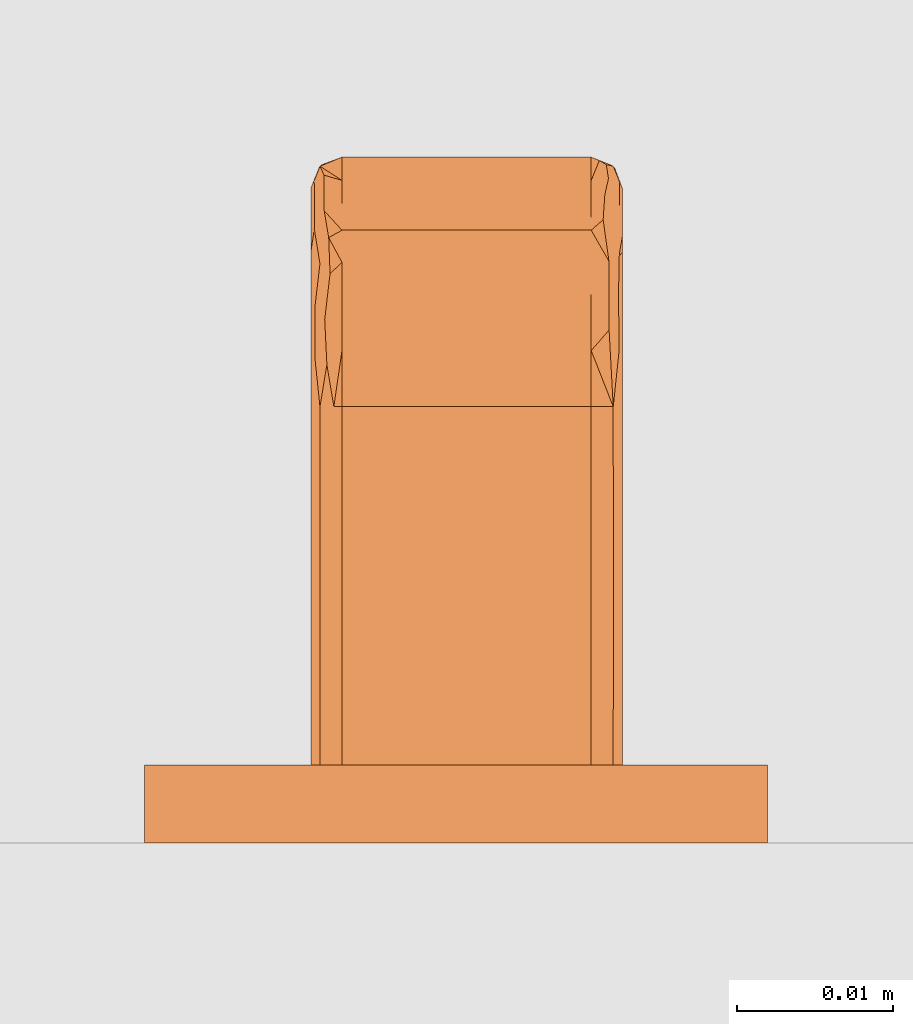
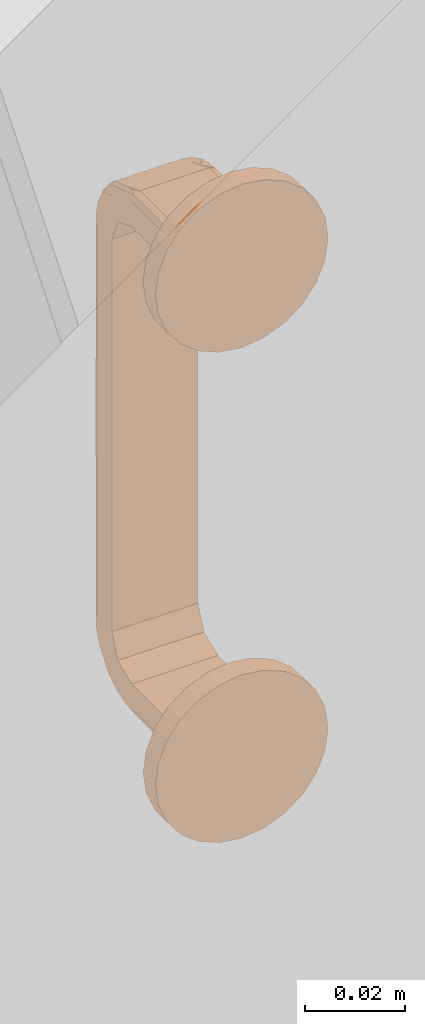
# One storey, part 41 of 67: 1 proxy.
"""IFC4 building model written with IfcOpenShell, lengths in millimetres."""

from ifc_helpers import new_model, entity, si_unit, converted_unit, direction, frame, origin, place, context, subcontext, project, spatial, polygons, source, transform, mapped, material, type_object, type_shapes, element, save


model = new_model("IFC4")

# Units and contexts
model_context = context("Model", 3, precision=0.01, world=origin(), true_north=direction((0.0, 1.0)))
body_context = subcontext(model_context, "Body", "Model", "MODEL_VIEW")
ifc_project = project(units=[si_unit("LENGTHUNIT", "METRE", prefix="MILLI"), si_unit("AREAUNIT", "SQUARE_METRE"), si_unit("VOLUMEUNIT", "CUBIC_METRE"), converted_unit("PLANEANGLEUNIT", "DEGREE", entity("IfcPlaneAngleMeasure", 0.017453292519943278), si_unit("PLANEANGLEUNIT", "RADIAN"), dimensions=[0, 0, 0, 0, 0, 0, 0])], contexts=[model_context])

# Site, building, storey, space
site_placement = place(None, origin())
site = spatial("IfcSite", under=ifc_project, at=site_placement, Name="Tomtens navn", CompositionType="ELEMENT")
building_placement = place(site_placement, origin())
building = spatial("IfcBuilding", under=site, at=building_placement, Name="Byggets navn", CompositionType="ELEMENT")
storey_placement = place(building_placement, origin())
storey = spatial("IfcBuildingStorey", under=building, at=storey_placement, Name="Level 01", CompositionType="ELEMENT", Elevation=2.1993652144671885e-25)
space_placement = place(storey_placement, origin())
space = spatial("IfcSpace", under=storey, at=space_placement, Name="102", CompositionType="ELEMENT", PredefinedType="NOTDEFINED")

# Proxy
ifc_material = material(Name="Handtag, vitt", Category="Unassigned")
building_element_proxy_type = type_object("IfcBuildingElementProxyType", Name="Handtag skåp1:Handtag skåp", PredefinedType="NOTDEFINED", material=ifc_material)
shared_shape = source(origin(), body_context, "Body", "Tessellation", [
    polygons([(8.670220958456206, 4.999999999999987, 4.021099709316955), (-7.329779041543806, 4.999999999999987, 4.021099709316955), (-8.743992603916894, 4.9999999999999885, 3.435313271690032), (-9.32977904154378, 4.999999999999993, 2.021099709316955), (-9.32977904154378, 5.0000000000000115, -4.0210997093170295), (10.67022095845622, 5.0000000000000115, -4.021099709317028), (10.67022095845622, 4.999999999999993, 2.0210997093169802), (10.084434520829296, 4.9999999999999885, 3.435313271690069), (10.67022095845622, 28.000000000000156, 2.0210997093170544), (10.084434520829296, 28.000000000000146, 3.435313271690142), (8.670220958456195, 28.000000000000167, 4.0210997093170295), (8.670220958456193, 15.654960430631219, 4.02109970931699), (10.67022095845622, 17.345040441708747, 2.02109970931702), (10.08659387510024, 16.21238630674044, 3.433150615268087), (10.67022095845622, 28.000000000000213, -4.021099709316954), (10.67022095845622, 33.64193450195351, -6.358065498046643), (10.67022095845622, 35.97890029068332, -11.999999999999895), (10.67022095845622, 35.97890029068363, -107.99999999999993), (10.67022095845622, 33.641934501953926, -113.64193450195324), (10.67022095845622, 28.000000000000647, -115.97890029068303), (10.67022095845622, 4.999999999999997, -115.97890029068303), (10.67022095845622, 4.999999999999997, -122.02109970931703), (10.67022095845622, 28.000000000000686, -122.02109970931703), (10.67022095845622, 37.914414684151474, -117.91441468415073), (10.67022095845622, 42.02109970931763, -107.99999999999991), (10.67022095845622, 42.0210997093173, -11.999999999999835), (10.67022095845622, 37.914414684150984, -2.085585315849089), (-9.32977904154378, 28.000000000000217, -4.021099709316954), (-9.32977904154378, 28.000000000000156, 2.02109970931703), (-9.32977904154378, 37.91441468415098, -2.085585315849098), (-9.32977904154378, 42.02109970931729, -11.999999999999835), (-9.32977904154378, 42.02109970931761, -107.99999999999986), (-9.32977904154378, 37.91441468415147, -117.91441468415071), (-9.32977904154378, 28.00000000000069, -122.02109970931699), (-9.32977904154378, 4.999999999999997, -122.021099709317), (-9.32977904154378, 4.999999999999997, -115.978900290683), (-9.32977904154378, 28.000000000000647, -115.97890029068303), (-9.32977904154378, 33.641934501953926, -113.64193450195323), (-9.32977904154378, 35.97890029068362, -107.99999999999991), (-9.32977904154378, 35.978900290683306, -11.999999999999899), (-9.32977904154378, 33.64193450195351, -6.358065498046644), (-7.329779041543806, 28.00000000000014, 4.0210997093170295), (-8.743992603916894, 28.000000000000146, 3.435313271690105), (-9.32977904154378, 15.654959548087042, 2.021099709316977), (-7.3297790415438, 17.34503999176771, 4.021099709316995), (-8.741829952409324, 16.21238644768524, 3.43747262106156), (10.084434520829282, 43.43531327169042, -11.999999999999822), (8.670220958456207, 44.021099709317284, -11.999999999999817), (8.670220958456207, 39.328628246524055, -0.6713717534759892), (10.67022095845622, 31.60126528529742, 0.5294067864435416), (8.670220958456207, 41.03771385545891, -4.797469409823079), (10.084434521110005, 40.40873190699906, -2.8200071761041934), (8.670220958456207, 35.20253058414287, 1.0377138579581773), (9.809043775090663, 37.34144424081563, 0.5752165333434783), (9.818751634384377, 32.92350079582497, 2.8642465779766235), (10.67022095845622, 39.96775719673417, -7.042792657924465), (10.377327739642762, 28.000000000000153, 2.7282064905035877), (8.670220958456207, 42.529406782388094, -8.398734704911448), (9.779150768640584, 42.65191997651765, -6.400304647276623), (10.431420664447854, 34.75591670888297, 1.357514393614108), (10.447049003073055, 37.64140257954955, -0.5884869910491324), (10.67022095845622, 34.7578399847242, -0.7780892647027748), (10.453824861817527, 31.52927433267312, 2.5026982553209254), (8.670220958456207, 31.601265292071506, 2.5294067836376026), (8.670220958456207, 40.18317105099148, -2.734420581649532), (9.435587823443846, 40.00295364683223, -1.6197407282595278), (9.543801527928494, 41.59747716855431, -3.9137042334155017), (10.67022095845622, 38.941085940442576, -4.564188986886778), (10.50224699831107, 40.95405539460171, -4.794062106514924), (10.477567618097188, 42.45420227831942, -8.47617064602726), (9.193272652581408, 43.80444460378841, -11.999999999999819), (9.638611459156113, 43.538770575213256, -9.303396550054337), (10.67022095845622, 40.99442845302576, -9.521396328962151), (-7.329779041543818, 44.021099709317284, -11.999999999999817), (-8.743992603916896, 43.43531327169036, -11.999999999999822), (-7.329779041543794, 39.328628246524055, -0.6713717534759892), (-7.329779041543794, 35.20253057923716, 1.0377138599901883), (-8.743992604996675, 37.179992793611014, 0.40873192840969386), (-9.32977904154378, 40.52940677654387, -8.398734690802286), (-7.329779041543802, 41.03771385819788, -4.797469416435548), (-8.468601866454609, 40.57521654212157, -2.6585557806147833), (-8.47830971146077, 42.864246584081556, -7.076499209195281), (-9.32977904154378, 32.95720734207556, -0.03224280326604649), (-9.036885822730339, 42.728206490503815, -11.999999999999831), (-7.329779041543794, 31.601265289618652, 2.529406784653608), (-8.43870885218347, 33.59969531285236, 2.6519199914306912), (-9.090978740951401, 41.357514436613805, -5.244083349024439), (-9.106607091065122, 39.41151304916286, -2.358597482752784), (-9.32977904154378, 39.22191073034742, -5.242160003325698), (-9.113382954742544, 42.502698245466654, -8.470725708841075), (-7.32977904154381, 42.52940678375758, -8.398734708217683), (-7.329779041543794, 37.26557941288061, 0.18317105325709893), (-8.095145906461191, 36.54048464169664, 1.37463273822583), (-8.18279176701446, 38.85536792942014, -0.47819170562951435), (-9.32977904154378, 35.43581101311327, -1.0589140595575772), (-7.852830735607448, 28.00000000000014, 3.8044446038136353), (-8.29816953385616, 30.69660343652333, 3.5387705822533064), (-9.060718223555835, 31.048754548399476, 2.7104148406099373), (-9.074370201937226, 34.340507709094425, 1.5930015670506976), (-9.32977904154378, 30.478603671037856, 0.9944284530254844), (-7.32977904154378, 33.664314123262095, 1.6748639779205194), (8.670220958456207, 33.664314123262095, 1.6748639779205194), (8.670220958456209, 30.748770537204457, 2.882521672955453), (-7.32977904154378, 41.67486397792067, -6.335685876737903), (8.670220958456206, 41.67486397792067, -6.335685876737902), (8.670220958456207, 40.50174611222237, -3.503528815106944), (-7.32977904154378, 36.496471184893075, 0.5017461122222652), (8.670220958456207, 36.496471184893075, 0.5017461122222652), (-7.32977904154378, 30.83215706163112, 2.847981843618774), (8.670220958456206, 42.882521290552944, -9.251228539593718), (-7.32977904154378, 42.84798184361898, -9.167842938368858), (-7.32977904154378, 40.50174611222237, -3.503528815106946), (10.084434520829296, 43.435313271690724, -107.99999999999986), (8.670220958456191, 44.0210997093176, -107.99999999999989), (10.67022095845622, 42.02109970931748, -61.380159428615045), (8.670220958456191, 44.021099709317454, -60.0000005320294), (8.670220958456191, 44.02109970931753, -83.30992070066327), (10.67022095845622, 42.021099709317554, -84.69007971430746), (8.670220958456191, 44.021099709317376, -36.690079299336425), (10.67022095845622, 42.02109970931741, -36.690079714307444), (10.67022095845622, 42.021099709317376, -24.34503985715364), (8.670220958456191, 44.02109970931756, -95.65496088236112), (8.670220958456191, 44.02109970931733, -24.34504018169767), (10.67022095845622, 42.021099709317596, -95.65496014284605), (10.084434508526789, 43.43531328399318, -90.17251993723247), (10.67022095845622, 42.02109970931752, -73.035119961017), (10.043884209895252, 43.4747328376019, -67.20763959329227), (10.084434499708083, 43.435313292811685, -30.517560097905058), (10.084434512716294, 43.435313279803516, -43.72292802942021), (10.67022095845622, 42.021099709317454, -49.03511957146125), (10.049878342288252, 43.469044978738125, -55.46284370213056), (8.67022095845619, 44.02109970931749, -71.65496114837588), (10.18815291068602, 43.32336027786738, -78.66752152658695), (8.670220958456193, 44.02109970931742, -48.34503991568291), (-7.329779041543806, 44.0210997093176, -107.99999999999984), (-8.743992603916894, 43.43531327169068, -107.99999999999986), (-7.3297790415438, 44.021099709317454, -61.38015981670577), (-9.32977904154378, 42.021099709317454, -59.999999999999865), (-9.32977904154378, 42.02109970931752, -83.30992051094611), (-7.329779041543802, 44.02109970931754, -84.69008022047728), (-9.32977904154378, 42.02109970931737, -36.69007991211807), (-7.329779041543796, 44.021099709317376, -36.69007990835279), (-7.329779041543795, 44.02109970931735, -24.345039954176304), (-9.32977904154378, 42.02109970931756, -95.65496025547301), (-9.32977904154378, 42.02109970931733, -24.345040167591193), (-7.329779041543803, 44.021099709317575, -95.65496067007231), (-8.743992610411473, 43.43531326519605, -90.17252002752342), (-7.3297790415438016, 44.0210997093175, -73.03512001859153), (-8.783412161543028, 43.39476296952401, -67.2076399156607), (-8.743992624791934, 43.4353132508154, -30.517560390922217), (-8.74399260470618, 43.43531327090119, -43.72292838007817), (-7.329779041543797, 44.02109970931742, -49.03511986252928), (-8.777724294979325, 43.40075710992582, -55.46284405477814), (-9.32977904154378, 42.02109970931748, -71.65496025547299), (-8.632039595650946, 43.53903167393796, -78.6675217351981), (-9.32977904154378, 42.02109970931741, -48.345039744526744), (10.08443452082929, 28.0000000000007, -123.43531327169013), (8.670220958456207, 28.000000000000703, -124.02109970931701), (8.670220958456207, 39.32862824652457, -119.32862824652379), (10.67022095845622, 40.52940678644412, -111.60126528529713), (8.670220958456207, 35.202530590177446, -121.03771385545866), (10.084434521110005, 37.179992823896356, -120.4087319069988), (8.670220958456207, 41.03771385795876, -115.20253058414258), (9.809043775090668, 40.575216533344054, -117.34144424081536), (9.818751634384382, 42.864246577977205, -112.9235007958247), (10.67022095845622, 32.95720734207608, -119.96775719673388), (10.377327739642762, 42.728206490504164, -107.99999999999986), (8.670220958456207, 31.601265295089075, -122.52940678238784), (9.779150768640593, 33.5996953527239, -122.65191997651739), (10.431420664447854, 41.357514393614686, -114.7559167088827), (10.447049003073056, 39.41151300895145, -117.64140257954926), (10.67022095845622, 39.2219107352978, -114.75783998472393), (10.453824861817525, 42.50269825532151, -111.52927433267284), (8.670220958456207, 42.52940678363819, -111.60126529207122), (8.670220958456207, 37.26557941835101, -120.18317105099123), (9.43558782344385, 38.38025927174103, -120.00295364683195), (9.543801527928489, 36.08629576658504, -121.59747716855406), (10.67022095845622, 35.435811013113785, -118.9410859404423), (10.50224699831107, 35.20593789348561, -120.95405539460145), (10.477567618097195, 31.523829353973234, -122.45420227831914), (9.193272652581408, 28.000000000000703, -123.80444460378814), (9.638611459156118, 30.696603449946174, -123.538770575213), (10.67022095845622, 30.47860367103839, -120.99442845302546), (-7.329779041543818, 28.000000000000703, -124.02109970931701), (-8.743992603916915, 28.0000000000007, -123.43531327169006), (-7.329779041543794, 39.32862824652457, -119.32862824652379), (-7.329779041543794, 41.03771385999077, -115.20253057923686), (-8.743992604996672, 40.40873192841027, -117.17999279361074), (-9.32977904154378, 31.601265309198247, -120.52940677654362), (-7.329779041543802, 35.20253058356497, -121.03771385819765), (-8.468601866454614, 37.34144421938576, -120.57521654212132), (-8.478309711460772, 32.92350079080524, -122.8642465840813), (-9.32977904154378, 39.967757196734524, -112.95720734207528), (-9.036885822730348, 28.000000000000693, -122.72820649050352), (-7.329779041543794, 42.529406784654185, -111.60126528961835), (-8.438708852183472, 42.65191999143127, -113.59969531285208), (-9.090978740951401, 34.75591665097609, -121.35751443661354), (-9.106607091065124, 37.64140251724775, -119.41151304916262), (-9.32977904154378, 34.75783999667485, -119.22191073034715), (-9.113382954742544, 31.529274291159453, -122.50269824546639), (-7.329779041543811, 31.601265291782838, -122.52940678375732), (-7.329779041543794, 40.18317105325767, -117.26557941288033), (-8.095145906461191, 41.37463273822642, -116.54048464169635), (-8.182791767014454, 39.52180829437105, -118.85536792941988), (-9.32977904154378, 38.941085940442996, -115.435811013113), (-7.852830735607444, 43.804444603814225, -107.99999999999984), (-8.298169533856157, 43.53877058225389, -110.69660343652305), (-9.060718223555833, 42.710414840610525, -111.04875454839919), (-9.074370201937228, 41.59300156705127, -114.34050770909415), (-9.32977904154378, 40.99442845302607, -110.47860367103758), (-7.32977904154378, 41.6748639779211, -113.66431412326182), (8.670220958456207, 41.6748639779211, -113.66431412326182), (8.670220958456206, 42.88252167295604, -110.74877053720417), (-7.32977904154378, 33.66431412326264, -121.67486397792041), (8.670220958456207, 33.66431412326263, -121.67486397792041), (8.670220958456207, 36.4964711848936, -120.50174611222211), (-7.32977904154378, 40.50174611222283, -116.4964711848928), (8.670220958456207, 40.50174611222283, -116.4964711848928), (-7.32977904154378, 42.84798184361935, -110.83215706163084), (8.670220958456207, 30.748771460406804, -122.88252129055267), (-7.329779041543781, 30.83215706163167, -122.84798184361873), (-7.32977904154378, 36.49647118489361, -120.50174611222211), (8.670220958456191, 4.99999999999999, -124.021099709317), (10.084434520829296, 4.99999999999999, -123.43531327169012), (-8.743992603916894, 4.99999999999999, -123.43531327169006), (-7.32977904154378, 4.99999999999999, -124.02109970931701), (8.670220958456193, 17.34504139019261, -124.021099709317), (10.67022095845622, 15.65496022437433, -122.02109970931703), (10.08659387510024, 16.787613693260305, -123.43315061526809), (-9.32977904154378, 17.34504010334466, -122.02109970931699), (-7.3297790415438, 15.6549594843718, -124.021099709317), (-8.741829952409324, 16.787613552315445, -123.43747262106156)], [[[4, 5, 6, 7, 8, 1, 2, 3]], [[18, 17, 40, 39]], [[226, 223, 224, 22, 21, 36, 35, 225]], [[13, 9, 57, 10]], [[14, 13, 10]], [[11, 12, 14]], [[1, 8, 12]], [[12, 8, 14]], [[13, 14, 7]], [[14, 8, 7]], [[14, 10, 11]], [[6, 15, 16, 17, 18, 19, 20, 21, 22, 228, 23, 183, 166, 178, 24, 172, 160, 25, 124, 118, 126, 115, 130, 120, 121, 26, 73, 56, 68, 27, 62, 50, 9, 13, 7]], [[15, 6, 5, 28]], [[158, 227, 223, 226, 231, 184]], [[36, 37, 38, 39, 40, 41, 28, 5, 4, 44, 29, 100, 83, 95, 30, 89, 79, 31, 145, 141, 156, 138, 154, 139, 144, 32, 210, 193, 205, 33, 199, 189, 34, 230, 35]], [[45, 42, 96, 43]], [[46, 45, 43]], [[29, 44, 46]], [[4, 3, 44]], [[44, 3, 46]], [[45, 46, 2]], [[46, 3, 2]], [[46, 43, 29]], [[2, 1, 12, 11, 42, 45]], [[21, 20, 37, 36]], [[60, 62, 61]], [[68, 56, 69]], [[66, 65, 49]], [[55, 54, 53]], [[59, 58, 105, 51]], [[67, 51, 106, 65]], [[69, 56, 70]], [[50, 60, 63]], [[55, 64, 10]], [[59, 67, 52]], [[54, 49, 108, 53]], [[72, 71, 58]], [[54, 55, 60]], [[69, 61, 68]], [[66, 52, 67]], [[68, 61, 27]], [[55, 10, 63]], [[63, 10, 57, 9]], [[71, 48, 110, 58]], [[70, 26, 47]], [[54, 60, 61]], [[63, 9, 50]], [[54, 61, 52]], [[27, 61, 62]], [[60, 50, 62]], [[63, 60, 55]], [[10, 64, 103, 11]], [[55, 53, 102, 64]], [[66, 54, 52]], [[66, 49, 54]], [[66, 67, 65]], [[67, 59, 51]], [[69, 52, 61]], [[69, 59, 52]], [[59, 69, 70]], [[70, 72, 59]], [[73, 26, 70, 56]], [[47, 71, 72]], [[47, 72, 70]], [[59, 72, 58]], [[15, 28, 41, 16]], [[41, 40, 17, 16]], [[96, 42, 109, 85]], [[79, 87, 90]], [[86, 85, 101, 77]], [[86, 99, 98]], [[93, 77, 107, 92]], [[81, 82, 87]], [[80, 82, 81]], [[78, 95, 99]], [[87, 89, 88]], [[78, 99, 86]], [[93, 94, 78]], [[82, 91, 75]], [[81, 76, 112, 80]], [[94, 93, 92]], [[88, 78, 94]], [[95, 88, 30]], [[82, 75, 90]], [[90, 75, 84, 31]], [[43, 97, 98]], [[86, 98, 97]], [[81, 87, 88]], [[90, 31, 79]], [[94, 81, 88]], [[30, 88, 89]], [[87, 79, 89]], [[90, 87, 82]], [[75, 91, 111, 74]], [[82, 80, 104, 91]], [[93, 86, 77]], [[93, 78, 86]], [[94, 76, 81]], [[76, 94, 92]], [[78, 88, 95]], [[43, 96, 97]], [[97, 96, 85]], [[86, 97, 85]], [[98, 29, 43]], [[99, 95, 83, 100]], [[100, 98, 99]], [[100, 29, 98]], [[42, 11, 103, 64, 102, 53, 108, 49, 76, 92, 107, 77, 101, 85, 109]], [[105, 58, 110, 48, 74, 111, 91, 104, 80, 112, 76, 49, 65, 106, 51]], [[47, 26, 121, 120, 130, 129, 128]], [[124, 25, 167, 113, 125, 118]], [[118, 133, 126]], [[127, 115, 126]], [[123, 48, 71, 47, 128, 129, 134, 119]], [[113, 114, 122, 117, 125]], [[129, 130, 131]], [[115, 131, 130]], [[133, 127, 126]], [[132, 116, 127]], [[125, 117, 133]], [[116, 134, 131]], [[127, 116, 131]], [[127, 131, 115]], [[134, 129, 131]], [[132, 127, 133]], [[117, 132, 133]], [[125, 133, 118]], [[75, 74, 143, 142, 152, 151, 150]], [[146, 135, 206, 136, 147, 140]], [[140, 155, 148]], [[149, 137, 148]], [[145, 31, 84, 75, 150, 151, 156, 141]], [[136, 32, 144, 139, 147]], [[151, 152, 153]], [[137, 153, 152]], [[155, 149, 148]], [[154, 138, 149]], [[147, 139, 155]], [[138, 156, 153]], [[149, 138, 153]], [[149, 153, 137]], [[156, 151, 153]], [[154, 149, 155]], [[139, 154, 155]], [[147, 155, 140]], [[74, 48, 123, 119, 134, 116, 132, 117, 122, 114, 135, 146, 140, 148, 137, 152, 142, 143]], [[170, 172, 171]], [[178, 166, 179]], [[176, 175, 159]], [[165, 164, 163]], [[169, 168, 215, 161]], [[177, 161, 216, 175]], [[179, 166, 180]], [[160, 170, 173]], [[165, 174, 113]], [[169, 177, 162]], [[164, 159, 218, 163]], [[182, 181, 168]], [[164, 165, 170]], [[179, 171, 178]], [[176, 162, 177]], [[178, 171, 24]], [[165, 113, 173]], [[173, 113, 167, 25]], [[181, 158, 220, 168]], [[180, 23, 157]], [[164, 170, 171]], [[173, 25, 160]], [[164, 171, 162]], [[24, 171, 172]], [[170, 160, 172]], [[173, 170, 165]], [[113, 174, 213, 114]], [[165, 163, 212, 174]], [[176, 164, 162]], [[176, 159, 164]], [[176, 177, 175]], [[177, 169, 161]], [[179, 162, 171]], [[179, 169, 162]], [[169, 179, 180]], [[180, 182, 169]], [[183, 23, 180, 166]], [[157, 181, 182]], [[157, 182, 180]], [[169, 182, 168]], [[18, 39, 38, 19]], [[38, 37, 20, 19]], [[206, 135, 219, 195]], [[189, 197, 200]], [[196, 195, 211, 187]], [[196, 209, 208]], [[203, 187, 217, 202]], [[191, 192, 197]], [[190, 192, 191]], [[188, 205, 209]], [[197, 199, 198]], [[188, 209, 196]], [[203, 204, 188]], [[192, 201, 185]], [[191, 186, 222, 190]], [[204, 203, 202]], [[188, 196, 203]], [[205, 198, 33]], [[192, 185, 200]], [[200, 185, 194, 34]], [[136, 207, 208]], [[196, 208, 207]], [[191, 197, 198]], [[200, 34, 189]], [[204, 191, 198]], [[33, 198, 199]], [[197, 189, 199]], [[200, 197, 192]], [[185, 201, 221, 184]], [[192, 190, 214, 201]], [[187, 203, 196]], [[188, 204, 198]], [[204, 186, 191]], [[186, 204, 202]], [[188, 198, 205]], [[136, 206, 207]], [[207, 206, 195]], [[196, 207, 195]], [[208, 32, 136]], [[209, 205, 193, 210]], [[210, 208, 209]], [[210, 32, 208]], [[135, 114, 213, 174, 212, 163, 218, 159, 186, 202, 217, 187, 211, 195, 219]], [[215, 168, 220, 158, 184, 221, 201, 214, 190, 222, 186, 159, 175, 216, 161]], [[22, 224, 228]], [[229, 228, 224]], [[223, 227, 229]], [[227, 158, 181, 157]], [[227, 157, 229]], [[228, 229, 23]], [[229, 157, 23]], [[229, 224, 223]], [[226, 225, 231]], [[232, 231, 225]], [[35, 230, 232]], [[230, 34, 194, 185]], [[230, 185, 232]], [[231, 232, 184]], [[232, 185, 184]], [[232, 225, 35]]], closed=True),
    polygons([(-20.00000000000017, 4.999999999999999, 4.9806020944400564e-15), (-19.318516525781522, 4.999999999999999, 5.176380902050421), (-17.320508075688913, 4.999999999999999, 9.999999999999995), (-14.142135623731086, 4.999999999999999, 14.142135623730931), (-10.000000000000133, 4.999999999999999, 17.320508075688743), (-5.176380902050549, 4.999999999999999, 19.318516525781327), (-1.3958834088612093e-13, 4.999999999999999, 19.99999999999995), (5.176380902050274, 4.999999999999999, 19.31851652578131), (9.99999999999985, 4.999999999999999, 17.32050807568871), (14.142135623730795, 4.999999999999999, 14.142135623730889), (17.32050807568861, 4.999999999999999, 9.999999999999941), (19.3185165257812, 4.999999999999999, 5.17638090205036), (19.999999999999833, 4.999999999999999, -1.622393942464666e-13), (19.318516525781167, 4.999999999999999, -5.176380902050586), (17.320508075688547, 4.999999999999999, -10.000000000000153), (14.142135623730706, 4.999999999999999, -14.142135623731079), (9.999999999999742, 4.999999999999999, -17.320508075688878), (5.176380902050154, 4.999999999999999, -19.31851652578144), (-2.580269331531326e-13, 4.999999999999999, -20.00000000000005), (-5.176380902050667, 4.999999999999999, -19.318516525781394), (-10.000000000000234, 4.999999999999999, -17.320508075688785), (-14.14213562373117, 4.999999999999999, -14.142135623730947), (-17.320508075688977, 4.999999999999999, -9.999999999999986), (-19.318516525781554, 4.999999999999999, -5.176380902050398), (-20.00000000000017, 0.0, 1.386238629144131e-14), (-19.318516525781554, 0.0, -5.176380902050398), (-17.320508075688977, 0.0, -9.999999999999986), (-14.14213562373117, 0.0, -14.142135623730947), (-10.000000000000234, 0.0, -17.320508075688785), (-5.176380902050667, 0.0, -19.318516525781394), (-2.580269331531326e-13, 0.0, -20.00000000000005), (5.176380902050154, 0.0, -19.31851652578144), (9.999999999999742, 0.0, -17.320508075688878), (14.142135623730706, 0.0, -14.142135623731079), (17.320508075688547, 0.0, -10.000000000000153), (19.318516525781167, 0.0, -5.176380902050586), (19.999999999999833, 0.0, -5.075939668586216e-14), (19.3185165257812, 0.0, 5.17638090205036), (17.32050807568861, 0.0, 9.999999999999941), (14.142135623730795, 0.0, 14.142135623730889), (9.99999999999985, 0.0, 17.32050807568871), (5.176380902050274, 0.0, 19.31851652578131), (-1.3958834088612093e-13, 0.0, 19.99999999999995), (-5.176380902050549, 0.0, 19.318516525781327), (-10.000000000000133, 0.0, 17.320508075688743), (-14.142135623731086, 0.0, 14.142135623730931), (-17.320508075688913, 0.0, 9.999999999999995), (-19.318516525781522, 0.0, 5.176380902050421)], [[[16, 17, 18, 19, 20, 21, 22, 23, 24, 1, 2, 3, 4, 5, 6, 7, 8, 9, 10, 11, 12, 13, 14, 15]], [[41, 42, 43, 44, 45, 46, 47, 48, 25, 26, 27, 28, 29, 30, 31, 32, 33, 34, 35, 36, 37, 38, 39, 40]], [[25, 1, 24, 26]], [[26, 24, 23, 27]], [[29, 28, 22, 21]], [[22, 28, 27, 23]], [[30, 29, 21, 20]], [[30, 20, 19, 31]], [[31, 19, 18, 32]], [[32, 18, 17, 33]], [[35, 34, 16, 15]], [[16, 34, 33, 17]], [[36, 35, 15, 14]], [[36, 14, 13, 37]], [[37, 13, 12, 38]], [[38, 12, 11, 39]], [[41, 40, 10, 9]], [[10, 40, 39, 11]], [[42, 41, 9, 8]], [[42, 8, 7, 43]], [[43, 7, 6, 44]], [[44, 6, 5, 45]], [[47, 46, 4, 3]], [[4, 46, 45, 5]], [[48, 47, 3, 2]], [[48, 2, 1, 25]]], closed=True),
    polygons([(-20.000000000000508, 4.999999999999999, -120.00000000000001), (-19.31851652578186, 4.999999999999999, -114.82361909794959), (-17.320508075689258, 4.999999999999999, -110.00000000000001), (-14.142135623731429, 4.999999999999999, -105.85786437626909), (-10.000000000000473, 4.999999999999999, -102.67949192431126), (-5.176380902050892, 4.999999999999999, -100.68148347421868), (-4.779843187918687e-13, 4.999999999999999, -100.00000000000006), (5.176380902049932, 4.999999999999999, -100.6814834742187), (9.99999999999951, 4.999999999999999, -102.6794919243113), (14.142135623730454, 4.999999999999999, -105.85786437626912), (17.32050807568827, 4.999999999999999, -110.00000000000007), (19.31851652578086, 4.999999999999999, -114.82361909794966), (19.999999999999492, 4.999999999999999, -120.00000000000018), (19.318516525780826, 4.999999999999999, -125.1763809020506), (17.320508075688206, 4.999999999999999, -130.00000000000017), (14.142135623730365, 4.999999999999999, -134.1421356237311), (9.999999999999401, 4.999999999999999, -137.3205080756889), (5.176380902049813, 4.999999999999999, -139.31851652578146), (-6.006528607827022e-13, 4.999999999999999, -140.00000000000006), (-5.176380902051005, 4.999999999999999, -139.3185165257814), (-10.000000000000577, 4.999999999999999, -137.3205080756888), (-14.142135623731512, 4.999999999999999, -134.14213562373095), (-17.32050807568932, 4.999999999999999, -130.0), (-19.31851652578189, 4.999999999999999, -125.17638090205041), (-20.000000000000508, 0.0, -120.0), (-19.31851652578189, 0.0, -125.17638090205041), (-17.32050807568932, 0.0, -130.0), (-14.142135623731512, 0.0, -134.14213562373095), (-10.000000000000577, 0.0, -137.3205080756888), (-5.176380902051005, 0.0, -139.3185165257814), (-6.006528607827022e-13, 0.0, -140.00000000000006), (5.176380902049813, 0.0, -139.31851652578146), (9.999999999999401, 0.0, -137.3205080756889), (14.142135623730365, 0.0, -134.1421356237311), (17.320508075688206, 0.0, -130.00000000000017), (19.318516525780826, 0.0, -125.1763809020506), (19.999999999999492, 0.0, -120.00000000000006), (19.31851652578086, 0.0, -114.82361909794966), (17.32050807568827, 0.0, -110.00000000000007), (14.142135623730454, 0.0, -105.85786437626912), (9.99999999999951, 0.0, -102.6794919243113), (5.176380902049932, 0.0, -100.6814834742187), (-4.779843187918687e-13, 0.0, -100.00000000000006), (-5.176380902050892, 0.0, -100.68148347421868), (-10.000000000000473, 0.0, -102.67949192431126), (-14.142135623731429, 0.0, -105.85786437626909), (-17.320508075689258, 0.0, -110.00000000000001), (-19.31851652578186, 0.0, -114.82361909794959)], [[[17, 18, 19, 20, 21, 22, 23, 24, 1, 2, 3, 4, 5, 6, 7, 8, 9, 10, 11, 12, 13, 14, 15, 16]], [[41, 42, 43, 44, 45, 46, 47, 48, 25, 26, 27, 28, 29, 30, 31, 32, 33, 34, 35, 36, 37, 38, 39, 40]], [[25, 1, 24, 26]], [[26, 24, 23, 27]], [[29, 28, 22, 21]], [[22, 28, 27, 23]], [[30, 29, 21, 20]], [[30, 20, 19, 31]], [[31, 19, 18, 32]], [[32, 18, 17, 33]], [[35, 34, 16, 15]], [[16, 34, 33, 17]], [[36, 35, 15, 14]], [[36, 14, 13, 37]], [[37, 13, 12, 38]], [[38, 12, 11, 39]], [[41, 40, 10, 9]], [[10, 40, 39, 11]], [[42, 41, 9, 8]], [[42, 8, 7, 43]], [[43, 7, 6, 44]], [[44, 6, 5, 45]], [[47, 46, 4, 3]], [[4, 46, 45, 5]], [[48, 47, 3, 2]], [[48, 2, 1, 25]]], closed=True),
])
type_shapes(building_element_proxy_type, [shared_shape])
proxy_placement = place(space_placement, frame((64771.853528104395, 18543.46645692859, 1120.0)))
element("IfcBuildingElementProxy", 1, at=proxy_placement, inside=space, type_object=building_element_proxy_type, material=ifc_material, Name="Handtag skåp1:Handtag skåp", PredefinedType="NOTDEFINED", context=body_context, shape_type="MappedRepresentation", body=[
    mapped(shared_shape, transform((0.0, 0.0, 0.0), scale=1.0)),
])

save(model, "model.ifc")
